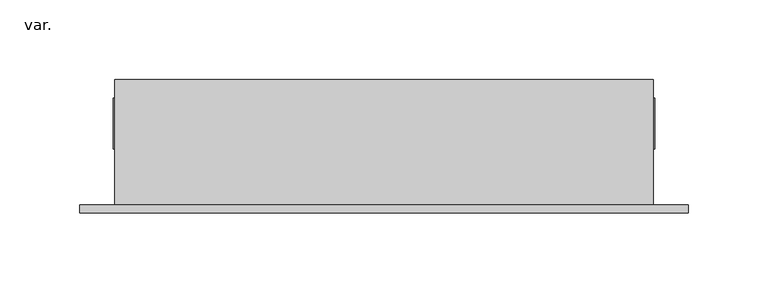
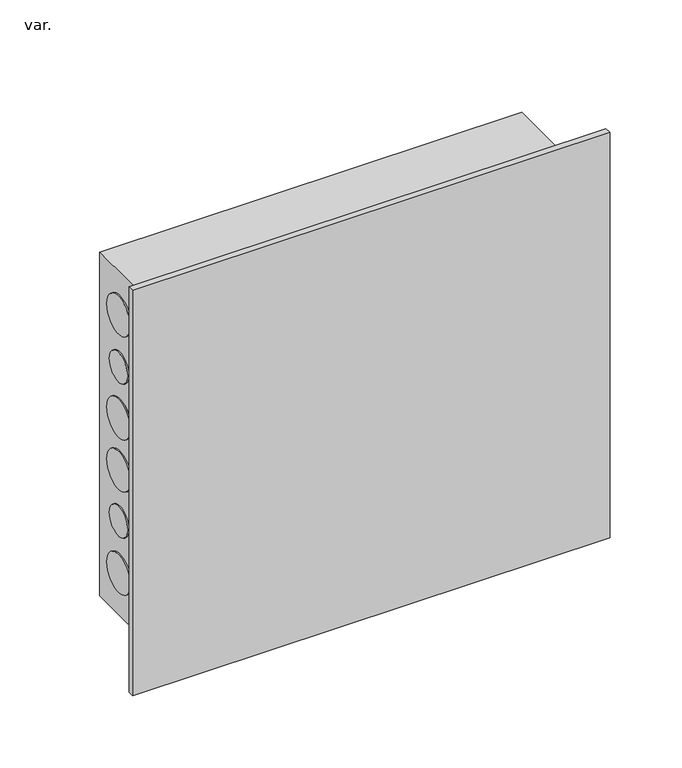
"""IFC4 building model written with IfcOpenShell, lengths in millimetres: pipe fitting geometry, AmancoWavin_ConexõesdoConduite_LinhaEletricaCorrugadoCaixadePassagemdeParedeGrande : var.."""

import ifcopenshell
import ifcopenshell.guid

model = None  # the IFC model being written
_history = None  # IfcOwnerHistory: only IFC2X3 demands one
_inside = {}  # id of a spatial element -> (the spatial element, [elements in it])
_under = {}  # id of a project, library or spatial element -> (it, [spatial elements below it])
_declared = {}  # id of a project -> (the project, [libraries it declares])
_typed = {}  # id of a type object -> (the type object, [elements of that type])
_made_of = {}  # id of a material, layer set ... -> (it, [elements and type objects made of it])


def new_model(schema):
    """Start an empty IFC model of exactly this schema.

    Asked for "IFC4X3", IfcOpenShell would pick the latest addendum, in which some entities
    have other attributes; the version numbers below select the first issue.
    IFC2X3 requires an IfcOwnerHistory on every rooted entity: one is made here for all.
    """
    global model, _history
    if schema == "IFC4X3":
        model = ifcopenshell.file(schema_version=(4, 3, 0, 0))
    else:
        model = ifcopenshell.file(schema=schema)
    _inside.clear()
    _under.clear()
    _declared.clear()
    _typed.clear()
    _made_of.clear()
    _history = None
    if model.schema == "IFC2X3":
        org = make("IfcOrganization", Name="unknown")
        user = make(
            "IfcPersonAndOrganization",
            ThePerson=make("IfcPerson", FamilyName="unknown"),
            TheOrganization=org,
        )
        app = make(
            "IfcApplication",
            ApplicationDeveloper=org,
            Version="unknown",
            ApplicationFullName="unknown",
            ApplicationIdentifier="unknown",
        )
        _history = make(
            "IfcOwnerHistory",
            OwningUser=user,
            OwningApplication=app,
            ChangeAction="ADDED",
            CreationDate=0,
        )
    return model


def make(cls, **values):
    """One entity of the class cls with the attributes given. An attribute that is None is left unset."""
    return model.create_entity(
        cls, **{name: value for name, value in values.items() if value is not None}
    )


def rooted(cls, **values):
    """An entity with a GlobalId (a new one), such as an element, a storey or a relation."""
    return make(cls, GlobalId=ifcopenshell.guid.new(), OwnerHistory=_history, **values)


def si_unit(unit_type, name, prefix=None):
    """IfcSIUnit, for example si_unit("LENGTHUNIT", "METRE", prefix="MILLI")."""
    return make("IfcSIUnit", UnitType=unit_type, Prefix=prefix, Name=name)


def assignment(units):
    """IfcUnitAssignment: the units of a project."""
    return None if units is None else make("IfcUnitAssignment", Units=units)


def point(xyz):
    """IfcCartesianPoint."""
    return None if xyz is None else make("IfcCartesianPoint", Coordinates=xyz)


def direction(xyz):
    """IfcDirection."""
    return None if xyz is None else make("IfcDirection", DirectionRatios=xyz)


def frame(location, z_axis=None, x_axis=None):
    """IfcAxis2Placement3D, a coordinate frame: its origin and axes. An axis left out is left unset."""
    return make(
        "IfcAxis2Placement3D",
        Location=point(location),
        Axis=direction(z_axis),
        RefDirection=direction(x_axis),
    )


def origin():
    """The frame at (0, 0, 0) with its axes left unset."""
    return frame((0.0, 0.0, 0.0))


def place(relative_to, where):
    """IfcLocalPlacement: puts the frame where relative to a parent placement (None: the world)."""
    return make(
        "IfcLocalPlacement", PlacementRelTo=relative_to, RelativePlacement=where
    )


def context(
    kind, dimensions, precision=None, world=None, true_north=None, identifier=None
):
    """IfcGeometricRepresentationContext, for example the 3D "Model" context."""
    return make(
        "IfcGeometricRepresentationContext",
        ContextIdentifier=identifier,
        ContextType=kind,
        CoordinateSpaceDimension=dimensions,
        Precision=precision,
        WorldCoordinateSystem=world,
        TrueNorth=true_north,
    )


def project(units=None, contexts=None):
    """IfcProject with its units and contexts."""
    return rooted(
        "IfcProject",
        Name="project",
        RepresentationContexts=contexts,
        UnitsInContext=assignment(units),
    )


def spatial(cls, under=None, at=None, **own):
    """A site, building, storey or space (cls), placed at a placement, below another one or the project."""
    s = rooted(cls, ObjectPlacement=at, **own)
    if under is not None:
        _under.setdefault(under.id(), (under, []))[1].append(s)
    return s


def polyline(points):
    """IfcPolyline through the points."""
    return make("IfcPolyline", Points=[point(p) for p in points])


def circle_curve(where, radius):
    """IfcCircle in the frame where."""
    return make("IfcCircle", Position=where, Radius=radius)


def shape(context_of_items, identifier, shape_type, items):
    """IfcShapeRepresentation: the items that make up one representation, for example the "Body"."""
    return make(
        "IfcShapeRepresentation",
        ContextOfItems=context_of_items,
        RepresentationIdentifier=identifier,
        RepresentationType=shape_type,
        Items=items,
    )


def source(mapping_origin, context_of_items, identifier, shape_type, items):
    """IfcRepresentationMap: a shape defined once, which mapped items show again and again."""
    return make(
        "IfcRepresentationMap",
        MappingOrigin=mapping_origin,
        MappedRepresentation=shape(context_of_items, identifier, shape_type, items),
    )


def transform(
    local_origin,
    x_axis=None,
    y_axis=None,
    z_axis=None,
    scale=None,
    scale2=None,
    scale3=None,
    uniform=True,
):
    """IfcCartesianTransformationOperator3D, or its non-uniform kind. x_axis, y_axis, z_axis: its Axis1, 2, 3."""
    if uniform:
        return make(
            "IfcCartesianTransformationOperator3D",
            Axis1=direction(x_axis),
            Axis2=direction(y_axis),
            LocalOrigin=point(local_origin),
            Scale=scale,
            Axis3=direction(z_axis),
        )
    return make(
        "IfcCartesianTransformationOperator3DnonUniform",
        Axis1=direction(x_axis),
        Axis2=direction(y_axis),
        LocalOrigin=point(local_origin),
        Scale=scale,
        Axis3=direction(z_axis),
        Scale2=scale2,
        Scale3=scale3,
    )


def mapped(mapping_source, mapping_target):
    """IfcMappedItem: shows the shape of a source again, moved by a transform."""
    return make(
        "IfcMappedItem", MappingSource=mapping_source, MappingTarget=mapping_target
    )


def made_of(thing, what):
    """Note that an element or type object is made of a material, layer set ...; save() writes the relation."""
    if what is not None:
        _made_of.setdefault(what.id(), (what, []))[1].append(thing)
    return thing


def element(
    cls,
    number,
    at=None,
    inside=None,
    cuts=None,
    type_object=None,
    material=None,
    context=None,
    identifier="Body",
    shape_type=None,
    held_by="IfcProductDefinitionShape",
    body=None,
    shapes=None,
    **own,
):
    """One element of the class cls, such as IfcWall. Its Tag is "e" and its number.

    at: its placement. inside: the storey or other place that contains it. cuts: it is an
    opening in that element (IfcRelVoidsElement). A single representation is given by context,
    identifier, shape_type and body (its items); several are given by shapes. held_by: the class
    of the entity that holds the representations. save() writes the other relations.
    """
    e = rooted(cls, Tag="e%d" % number, ObjectPlacement=at, **own)
    if body is not None:
        shapes = [shape(context, identifier, shape_type, body)]
    if shapes is not None:
        e.Representation = make(held_by, Representations=shapes)
    if inside is not None:
        _inside.setdefault(inside.id(), (inside, []))[1].append(e)
    if cuts is not None:
        rooted(
            "IfcRelVoidsElement", RelatingBuildingElement=cuts, RelatedOpeningElement=e
        )
    if type_object is not None:
        _typed.setdefault(type_object.id(), (type_object, []))[1].append(e)
    return made_of(e, material)


def aggregate(whole, parts):
    """IfcRelAggregates: a whole, such as a stair, and the parts it consists of."""
    return rooted("IfcRelAggregates", RelatingObject=whole, RelatedObjects=parts)


def save(model, path):
    """Write the relations noted so far, then the file.

    IfcRelAggregates (storeys below a building ...), IfcRelContainedInSpatialStructure (elements
    in a storey), IfcRelDefinesByType, IfcRelAssociatesMaterial and IfcRelDeclares: one each for
    every whole, place, type object, material and project.
    """
    for whole, parts in _under.values():
        aggregate(whole, parts)
    for where, things in _inside.values():
        rooted(
            "IfcRelContainedInSpatialStructure",
            RelatedElements=things,
            RelatingStructure=where,
        )
    for kind, things in _typed.values():
        rooted("IfcRelDefinesByType", RelatedObjects=things, RelatingType=kind)
    for what, things in _made_of.values():
        rooted("IfcRelAssociatesMaterial", RelatedObjects=things, RelatingMaterial=what)
    for by, libraries in _declared.values():
        rooted("IfcRelDeclares", RelatingContext=by, RelatedDefinitions=libraries)
    model.write(path)


def plane_surface(at):
    """IfcPlane: the flat surface through the origin of the frame at, square to its z axis."""
    return make("IfcPlane", Position=at)


def cylinder_surface(at, radius):
    """IfcCylindricalSurface: all points at the distance radius from the z axis of the frame at."""
    return make("IfcCylindricalSurface", Position=at, Radius=radius)


def revolved_surface(curve, axis_point, axis_direction):
    """IfcSurfaceOfRevolution: the curve turned about the line through axis_point along axis_direction."""
    return make(
        "IfcSurfaceOfRevolution",
        SweptCurve=make("IfcArbitraryOpenProfileDef", ProfileType="CURVE", Curve=curve),
        AxisPosition=make("IfcAxis1Placement", Location=point(axis_point), Axis=direction(axis_direction)),
    )


def advanced_brep(points, edges, surfaces, faces):
    """IfcAdvancedBrep: a solid bounded by faces that lie on surfaces and meet in shared edges.

    An edge is (start, end): straight between two places in points (the first is 0);
    or (start, end, curve); or (start, end, curve, False) where it runs against its curve.
    A face is (place in surfaces, loops), or (place, loops, False) where it looks against
    its surface's normal. A loop lists edges by number (the first is 1), with a minus sign
    where the edge is run from its end to its start. The first loop is the outer one.
    """
    corners = [point(p) for p in points]
    vertices = [make("IfcVertexPoint", VertexGeometry=c) for c in corners]
    made = []
    for start, end, *more in edges:
        made.append(
            make(
                "IfcEdgeCurve",
                EdgeStart=vertices[start],
                EdgeEnd=vertices[end],
                EdgeGeometry=more[0] if more else make("IfcPolyline", Points=[corners[start], corners[end]]),
                SameSense=more[1] if len(more) > 1 else True,
            )
        )
    hull = []
    for where, loops, *sense in faces:
        bounds = []
        for j, loop in enumerate(loops):
            ring = [make("IfcOrientedEdge", EdgeElement=made[abs(k) - 1], Orientation=k > 0) for k in loop]
            bounds.append(
                make(
                    "IfcFaceOuterBound" if j == 0 else "IfcFaceBound",
                    Bound=make("IfcEdgeLoop", EdgeList=ring),
                    Orientation=True,
                )
            )
        hull.append(make("IfcAdvancedFace", Bounds=bounds, FaceSurface=surfaces[where], SameSense=sense[0] if sense else True))
    return make("IfcAdvancedBrep", Outer=make("IfcClosedShell", CfsFaces=hull))


def var_74e7e824(model_context):
    return source(origin(), model_context, "Body", "AdvancedBrep", [
        advanced_brep(
        [(190.5, 5.0, 171.0), (190.5, 5.0, -171.0), (-190.5, 5.0, -171.0), (-190.5, 5.0, 171.0), (168.5, 5.0, -145.0), (168.5, 5.0, 145.0), (-168.5, 5.0, 145.0), (-168.5, 5.0, -145.0), (190.5, 0.0, 171.0), (190.5, 0.0, -171.0), (-190.5, 0.0, -171.0), (-190.5, 0.0, 171.0), (168.5, 83.5, 145.0), (168.5, 83.5, -145.0), (-168.5, 83.5, -145.0), (-168.5, 83.5, 145.0), (-132.5, 83.5, 120.0), (-157.5, 83.5, 120.0), (-89.0, 83.5, 120.0), (-121.0, 83.5, 120.0), (132.5, 83.5, 120.0), (157.5, 83.5, 120.0), (89.0, 83.5, 120.0), (121.0, 83.5, 120.0), (-132.5, 83.5, -120.0), (-157.5, 83.5, -120.0), (-89.0, 83.5, -120.0), (-121.0, 83.5, -120.0), (132.5, 83.5, -120.0), (157.5, 83.5, -120.0), (89.0, 83.5, -120.0), (121.0, 83.5, -120.0), (168.5, 40.0, 22.0), (168.5, 72.0, 22.0), (168.5, 43.5, 65.0), (168.5, 68.5, 65.0), (168.5, 40.0, 109.0), (168.5, 72.0, 109.0), (168.5, 40.0, -22.0), (168.5, 72.0, -22.0), (168.5, 43.5, -65.0), (168.5, 68.5, -65.0), (168.5, 40.0, -109.0), (168.5, 72.0, -109.0), (-168.5, 72.0, 22.0), (-168.5, 40.0, 22.0), (-168.5, 68.5, 65.0), (-168.5, 43.5, 65.0), (-168.5, 72.0, 109.0), (-168.5, 40.0, 109.0), (-168.5, 72.0, -22.0), (-168.5, 40.0, -22.0), (-168.5, 68.5, -65.0), (-168.5, 43.5, -65.0), (-168.5, 72.0, -109.0), (-168.5, 40.0, -109.0), (-157.5, 82.5, 120.0), (-132.5, 82.5, 120.0), (-121.0, 82.5, 120.0), (-89.0, 82.5, 120.0), (157.5, 82.5, 120.0), (132.5, 82.5, 120.0), (121.0, 82.5, 120.0), (89.0, 82.5, 120.0), (-157.5, 82.5, -120.0), (-132.5, 82.5, -120.0), (-121.0, 82.5, -120.0), (-89.0, 82.5, -120.0), (157.5, 82.5, -120.0), (132.5, 82.5, -120.0), (121.0, 82.5, -120.0), (89.0, 82.5, -120.0), (-169.5, 40.0, 22.0), (-169.5, 72.0, 22.0), (-169.5, 43.5, 65.0), (-169.5, 68.5, 65.0), (-169.5, 40.0, 109.0), (-169.5, 72.0, 109.0), (-169.5, 40.0, -22.0), (-169.5, 72.0, -22.0), (-169.5, 43.5, -65.0), (-169.5, 68.5, -65.0), (-169.5, 40.0, -109.0), (-169.5, 72.0, -109.0), (169.5, 40.0, 22.0), (169.5, 72.0, 22.0), (169.5, 43.5, 65.0), (169.5, 68.5, 65.0), (169.5, 40.0, 109.0), (169.5, 72.0, 109.0), (169.5, 40.0, -22.0), (169.5, 72.0, -22.0), (169.5, 43.5, -65.0), (169.5, 68.5, -65.0), (169.5, 40.0, -109.0), (169.5, 72.0, -109.0)],
        [
            (0, 1),
            (1, 2),
            (2, 3),
            (3, 0),
            (4, 5),
            (5, 6),
            (6, 7),
            (7, 4),
            (0, 8),
            (8, 9),
            (9, 1),
            (9, 10),
            (10, 2),
            (10, 11),
            (11, 3),
            (11, 8),
            (12, 13),
            (13, 14),
            (14, 15),
            (15, 12),
            (16, 17, circle_curve(frame((-145.0, 83.5, 120.0), z_axis=(0.0, -1.0, 0.0), x_axis=(1.0, 0.0, 0.0)), 12.5)),
            (17, 16, circle_curve(frame((-145.0, 83.5, 120.0), z_axis=(0.0, -1.0, 0.0), x_axis=(1.0, 0.0, 0.0)), 12.5)),
            (18, 19, circle_curve(frame((-105.0, 83.5, 120.0), z_axis=(0.0, -1.0, 0.0), x_axis=(1.0, 0.0, 0.0)), 16.0)),
            (19, 18, circle_curve(frame((-105.0, 83.5, 120.0), z_axis=(0.0, -1.0, 0.0), x_axis=(1.0, 0.0, 0.0)), 16.0)),
            (20, 21, circle_curve(frame((145.0, 83.5, 120.0), z_axis=(0.0, -1.0, 0.0), x_axis=(-1.0, 0.0, 0.0)), 12.5)),
            (21, 20, circle_curve(frame((145.0, 83.5, 120.0), z_axis=(0.0, -1.0, 0.0), x_axis=(-1.0, 0.0, 0.0)), 12.5)),
            (22, 23, circle_curve(frame((105.0, 83.5, 120.0), z_axis=(0.0, -1.0, 0.0), x_axis=(-1.0, 0.0, 0.0)), 16.0)),
            (23, 22, circle_curve(frame((105.0, 83.5, 120.0), z_axis=(0.0, -1.0, 0.0), x_axis=(-1.0, 0.0, 0.0)), 16.0)),
            (24, 25, circle_curve(frame((-145.0, 83.5, -120.0), z_axis=(0.0, -1.0, 0.0), x_axis=(1.0, 0.0, 0.0)), 12.5)),
            (25, 24, circle_curve(frame((-145.0, 83.5, -120.0), z_axis=(0.0, -1.0, 0.0), x_axis=(1.0, 0.0, 0.0)), 12.5)),
            (26, 27, circle_curve(frame((-105.0, 83.5, -120.0), z_axis=(0.0, -1.0, 0.0), x_axis=(1.0, 0.0, 0.0)), 16.0)),
            (27, 26, circle_curve(frame((-105.0, 83.5, -120.0), z_axis=(0.0, -1.0, 0.0), x_axis=(1.0, 0.0, 0.0)), 16.0)),
            (28, 29, circle_curve(frame((145.0, 83.5, -120.0), z_axis=(0.0, -1.0, 0.0), x_axis=(-1.0, 0.0, 0.0)), 12.5)),
            (29, 28, circle_curve(frame((145.0, 83.5, -120.0), z_axis=(0.0, -1.0, 0.0), x_axis=(-1.0, 0.0, 0.0)), 12.5)),
            (30, 31, circle_curve(frame((105.0, 83.5, -120.0), z_axis=(0.0, -1.0, 0.0), x_axis=(-1.0, 0.0, 0.0)), 16.0)),
            (31, 30, circle_curve(frame((105.0, 83.5, -120.0), z_axis=(0.0, -1.0, 0.0), x_axis=(-1.0, 0.0, 0.0)), 16.0)),
            (12, 5),
            (4, 13),
            (32, 33, circle_curve(frame((168.5, 56.0, 22.0), z_axis=(-1.0, 0.0, 0.0), x_axis=(0.0, 1.0, 0.0)), 16.0)),
            (33, 32, circle_curve(frame((168.5, 56.0, 22.0), z_axis=(-1.0, 0.0, 0.0), x_axis=(0.0, 1.0, 0.0)), 16.0)),
            (34, 35, circle_curve(frame((168.5, 56.0, 65.0), z_axis=(-1.0, 0.0, 0.0), x_axis=(0.0, 1.0, 0.0)), 12.5)),
            (35, 34, circle_curve(frame((168.5, 56.0, 65.0), z_axis=(-1.0, 0.0, 0.0), x_axis=(0.0, 1.0, 0.0)), 12.5)),
            (36, 37, circle_curve(frame((168.5, 56.0, 109.0), z_axis=(-1.0, 0.0, 0.0), x_axis=(0.0, 1.0, 0.0)), 16.0)),
            (37, 36, circle_curve(frame((168.5, 56.0, 109.0), z_axis=(-1.0, 0.0, 0.0), x_axis=(0.0, 1.0, 0.0)), 16.0)),
            (38, 39, circle_curve(frame((168.5, 56.0, -22.0), z_axis=(-1.0, 0.0, 0.0), x_axis=(0.0, 1.0, 0.0)), 16.0)),
            (39, 38, circle_curve(frame((168.5, 56.0, -22.0), z_axis=(-1.0, 0.0, 0.0), x_axis=(0.0, 1.0, 0.0)), 16.0)),
            (40, 41, circle_curve(frame((168.5, 56.0, -65.0), z_axis=(-1.0, 0.0, 0.0), x_axis=(0.0, 1.0, 0.0)), 12.5)),
            (41, 40, circle_curve(frame((168.5, 56.0, -65.0), z_axis=(-1.0, 0.0, 0.0), x_axis=(0.0, 1.0, 0.0)), 12.5)),
            (42, 43, circle_curve(frame((168.5, 56.0, -109.0), z_axis=(-1.0, 0.0, 0.0), x_axis=(0.0, 1.0, 0.0)), 16.0)),
            (43, 42, circle_curve(frame((168.5, 56.0, -109.0), z_axis=(-1.0, 0.0, 0.0), x_axis=(0.0, 1.0, 0.0)), 16.0)),
            (7, 14),
            (6, 15),
            (44, 45, circle_curve(frame((-168.5, 56.0, 22.0), z_axis=(1.0, 0.0, 0.0), x_axis=(0.0, 1.0, 0.0)), 16.0)),
            (45, 44, circle_curve(frame((-168.5, 56.0, 22.0), z_axis=(1.0, 0.0, 0.0), x_axis=(0.0, 1.0, 0.0)), 16.0)),
            (46, 47, circle_curve(frame((-168.5, 56.0, 65.0), z_axis=(1.0, 0.0, 0.0), x_axis=(0.0, 1.0, 0.0)), 12.5)),
            (47, 46, circle_curve(frame((-168.5, 56.0, 65.0), z_axis=(1.0, 0.0, 0.0), x_axis=(0.0, 1.0, 0.0)), 12.5)),
            (48, 49, circle_curve(frame((-168.5, 56.0, 109.0), z_axis=(1.0, 0.0, 0.0), x_axis=(0.0, 1.0, 0.0)), 16.0)),
            (49, 48, circle_curve(frame((-168.5, 56.0, 109.0), z_axis=(1.0, 0.0, 0.0), x_axis=(0.0, 1.0, 0.0)), 16.0)),
            (50, 51, circle_curve(frame((-168.5, 56.0, -22.0), z_axis=(1.0, 0.0, 0.0), x_axis=(0.0, 1.0, 0.0)), 16.0)),
            (51, 50, circle_curve(frame((-168.5, 56.0, -22.0), z_axis=(1.0, 0.0, 0.0), x_axis=(0.0, 1.0, 0.0)), 16.0)),
            (52, 53, circle_curve(frame((-168.5, 56.0, -65.0), z_axis=(1.0, 0.0, 0.0), x_axis=(0.0, 1.0, 0.0)), 12.5)),
            (53, 52, circle_curve(frame((-168.5, 56.0, -65.0), z_axis=(1.0, 0.0, 0.0), x_axis=(0.0, 1.0, 0.0)), 12.5)),
            (54, 55, circle_curve(frame((-168.5, 56.0, -109.0), z_axis=(1.0, 0.0, 0.0), x_axis=(0.0, 1.0, 0.0)), 16.0)),
            (55, 54, circle_curve(frame((-168.5, 56.0, -109.0), z_axis=(1.0, 0.0, 0.0), x_axis=(0.0, 1.0, 0.0)), 16.0)),
            (56, 57, circle_curve(frame((-145.0, 82.5, 120.0), z_axis=(0.0, 1.0, 0.0), x_axis=(1.0, 0.0, 0.0)), 12.5)),
            (57, 56, circle_curve(frame((-145.0, 82.5, 120.0), z_axis=(0.0, 1.0, 0.0), x_axis=(1.0, 0.0, 0.0)), 12.5)),
            (58, 59, circle_curve(frame((-105.0, 82.5, 120.0), z_axis=(0.0, 1.0, 0.0), x_axis=(1.0, 0.0, 0.0)), 16.0)),
            (59, 58, circle_curve(frame((-105.0, 82.5, 120.0), z_axis=(0.0, 1.0, 0.0), x_axis=(1.0, 0.0, 0.0)), 16.0)),
            (60, 61, circle_curve(frame((145.0, 82.5, 120.0), z_axis=(0.0, 1.0, 0.0), x_axis=(-1.0, 0.0, 0.0)), 12.5)),
            (61, 60, circle_curve(frame((145.0, 82.5, 120.0), z_axis=(0.0, 1.0, 0.0), x_axis=(-1.0, 0.0, 0.0)), 12.5)),
            (62, 63, circle_curve(frame((105.0, 82.5, 120.0), z_axis=(0.0, 1.0, 0.0), x_axis=(-1.0, 0.0, 0.0)), 16.0)),
            (63, 62, circle_curve(frame((105.0, 82.5, 120.0), z_axis=(0.0, 1.0, 0.0), x_axis=(-1.0, 0.0, 0.0)), 16.0)),
            (64, 65, circle_curve(frame((-145.0, 82.5, -120.0), z_axis=(0.0, 1.0, 0.0), x_axis=(1.0, 0.0, 0.0)), 12.5)),
            (65, 64, circle_curve(frame((-145.0, 82.5, -120.0), z_axis=(0.0, 1.0, 0.0), x_axis=(1.0, 0.0, 0.0)), 12.5)),
            (66, 67, circle_curve(frame((-105.0, 82.5, -120.0), z_axis=(0.0, 1.0, 0.0), x_axis=(1.0, 0.0, 0.0)), 16.0)),
            (67, 66, circle_curve(frame((-105.0, 82.5, -120.0), z_axis=(0.0, 1.0, 0.0), x_axis=(1.0, 0.0, 0.0)), 16.0)),
            (68, 69, circle_curve(frame((145.0, 82.5, -120.0), z_axis=(0.0, 1.0, 0.0), x_axis=(-1.0, 0.0, 0.0)), 12.5)),
            (69, 68, circle_curve(frame((145.0, 82.5, -120.0), z_axis=(0.0, 1.0, 0.0), x_axis=(-1.0, 0.0, 0.0)), 12.5)),
            (70, 71, circle_curve(frame((105.0, 82.5, -120.0), z_axis=(0.0, 1.0, 0.0), x_axis=(-1.0, 0.0, 0.0)), 16.0)),
            (71, 70, circle_curve(frame((105.0, 82.5, -120.0), z_axis=(0.0, 1.0, 0.0), x_axis=(-1.0, 0.0, 0.0)), 16.0)),
            (56, 17),
            (16, 57),
            (58, 19),
            (18, 59),
            (60, 21),
            (20, 61),
            (62, 23),
            (22, 63),
            (64, 25),
            (24, 65),
            (66, 27),
            (26, 67),
            (68, 29),
            (28, 69),
            (70, 31),
            (30, 71),
            (72, 73, circle_curve(frame((-169.5, 56.0, 22.0), z_axis=(-1.0, 0.0, 0.0), x_axis=(0.0, 1.0, 0.0)), 16.0)),
            (73, 72, circle_curve(frame((-169.5, 56.0, 22.0), z_axis=(-1.0, 0.0, 0.0), x_axis=(0.0, 1.0, 0.0)), 16.0)),
            (74, 75, circle_curve(frame((-169.5, 56.0, 65.0), z_axis=(-1.0, 0.0, 0.0), x_axis=(0.0, 1.0, 0.0)), 12.5)),
            (75, 74, circle_curve(frame((-169.5, 56.0, 65.0), z_axis=(-1.0, 0.0, 0.0), x_axis=(0.0, 1.0, 0.0)), 12.5)),
            (76, 77, circle_curve(frame((-169.5, 56.0, 109.0), z_axis=(-1.0, 0.0, 0.0), x_axis=(0.0, 1.0, 0.0)), 16.0)),
            (77, 76, circle_curve(frame((-169.5, 56.0, 109.0), z_axis=(-1.0, 0.0, 0.0), x_axis=(0.0, 1.0, 0.0)), 16.0)),
            (78, 79, circle_curve(frame((-169.5, 56.0, -22.0), z_axis=(-1.0, 0.0, 0.0), x_axis=(0.0, 1.0, 0.0)), 16.0)),
            (79, 78, circle_curve(frame((-169.5, 56.0, -22.0), z_axis=(-1.0, 0.0, 0.0), x_axis=(0.0, 1.0, 0.0)), 16.0)),
            (80, 81, circle_curve(frame((-169.5, 56.0, -65.0), z_axis=(-1.0, 0.0, 0.0), x_axis=(0.0, 1.0, 0.0)), 12.5)),
            (81, 80, circle_curve(frame((-169.5, 56.0, -65.0), z_axis=(-1.0, 0.0, 0.0), x_axis=(0.0, 1.0, 0.0)), 12.5)),
            (82, 83, circle_curve(frame((-169.5, 56.0, -109.0), z_axis=(-1.0, 0.0, 0.0), x_axis=(0.0, 1.0, 0.0)), 16.0)),
            (83, 82, circle_curve(frame((-169.5, 56.0, -109.0), z_axis=(-1.0, 0.0, 0.0), x_axis=(0.0, 1.0, 0.0)), 16.0)),
            (84, 85, circle_curve(frame((169.5, 56.0, 22.0), z_axis=(1.0, 0.0, 0.0), x_axis=(0.0, 1.0, 0.0)), 16.0)),
            (85, 84, circle_curve(frame((169.5, 56.0, 22.0), z_axis=(1.0, 0.0, 0.0), x_axis=(0.0, 1.0, 0.0)), 16.0)),
            (86, 87, circle_curve(frame((169.5, 56.0, 65.0), z_axis=(1.0, 0.0, 0.0), x_axis=(0.0, 1.0, 0.0)), 12.5)),
            (87, 86, circle_curve(frame((169.5, 56.0, 65.0), z_axis=(1.0, 0.0, 0.0), x_axis=(0.0, 1.0, 0.0)), 12.5)),
            (88, 89, circle_curve(frame((169.5, 56.0, 109.0), z_axis=(1.0, 0.0, 0.0), x_axis=(0.0, 1.0, 0.0)), 16.0)),
            (89, 88, circle_curve(frame((169.5, 56.0, 109.0), z_axis=(1.0, 0.0, 0.0), x_axis=(0.0, 1.0, 0.0)), 16.0)),
            (90, 91, circle_curve(frame((169.5, 56.0, -22.0), z_axis=(1.0, 0.0, 0.0), x_axis=(0.0, 1.0, 0.0)), 16.0)),
            (91, 90, circle_curve(frame((169.5, 56.0, -22.0), z_axis=(1.0, 0.0, 0.0), x_axis=(0.0, 1.0, 0.0)), 16.0)),
            (92, 93, circle_curve(frame((169.5, 56.0, -65.0), z_axis=(1.0, 0.0, 0.0), x_axis=(0.0, 1.0, 0.0)), 12.5)),
            (93, 92, circle_curve(frame((169.5, 56.0, -65.0), z_axis=(1.0, 0.0, 0.0), x_axis=(0.0, 1.0, 0.0)), 12.5)),
            (94, 95, circle_curve(frame((169.5, 56.0, -109.0), z_axis=(1.0, 0.0, 0.0), x_axis=(0.0, 1.0, 0.0)), 16.0)),
            (95, 94, circle_curve(frame((169.5, 56.0, -109.0), z_axis=(1.0, 0.0, 0.0), x_axis=(0.0, 1.0, 0.0)), 16.0)),
            (72, 45),
            (44, 73),
            (85, 33),
            (32, 84),
            (74, 47),
            (46, 75),
            (87, 35),
            (34, 86),
            (76, 49),
            (48, 77),
            (89, 37),
            (36, 88),
            (78, 51),
            (50, 79),
            (91, 39),
            (38, 90),
            (80, 53),
            (52, 81),
            (93, 41),
            (40, 92),
            (82, 55),
            (54, 83),
            (95, 43),
            (42, 94),
        ],
        [
            plane_surface(frame((190.5, 5.0, 200.5423623), z_axis=(0.0, 1.0, 0.0), x_axis=(0.0, 0.0, -1.0))),
            plane_surface(frame((190.5, 5.0, 171.0), z_axis=(1.0, 0.0, 0.0), x_axis=(0.0, -1.0, 0.0))),
            plane_surface(frame((190.5, 5.0, -171.0), z_axis=(0.0, 0.0, -1.0), x_axis=(0.0, -1.0, 0.0))),
            plane_surface(frame((-190.5, 5.0, -171.0), z_axis=(-1.0, 0.0, 0.0), x_axis=(0.0, -1.0, 0.0))),
            plane_surface(frame((-190.5, 5.0, 171.0), z_axis=(0.0, 0.0, 1.0), x_axis=(0.0, -1.0, 0.0))),
            plane_surface(frame((168.5, 83.5, 132.4195146), z_axis=(0.0, 1.0, 0.0), x_axis=(0.0, 0.0, -1.0))),
            plane_surface(frame((168.5, 0.0, 132.4195146), z_axis=(0.0, -1.0, 0.0), x_axis=(0.0, 0.0, 1.0))),
            plane_surface(frame((168.5, 83.5, 145.0), z_axis=(1.0, 0.0, 0.0), x_axis=(0.0, -1.0, 0.0))),
            plane_surface(frame((168.5, 83.5, -145.0), z_axis=(0.0, 0.0, -1.0), x_axis=(0.0, -1.0, 0.0))),
            plane_surface(frame((-168.5, 83.5, -145.0), z_axis=(-1.0, 0.0, 0.0), x_axis=(0.0, -1.0, 0.0))),
            plane_surface(frame((-168.5, 83.5, 145.0), z_axis=(0.0, 0.0, 1.0), x_axis=(0.0, -1.0, 0.0))),
            plane_surface(frame((-132.5, 82.5, 120.0), z_axis=(0.0, 1.0, 0.0), x_axis=(0.0, 0.0, 1.0))),
            revolved_surface(polyline([(-132.5, 83.5, 120.0), (-132.5, 82.5, 120.0)]), (-145.0, 82.5, 120.0), (0.0, 1.0, 0.0)),
            revolved_surface(polyline([(-89.0, 83.5, 120.0), (-89.0, 82.5, 120.0)]), (-105.0, 0.0, 120.0), (0.0, 1.0, 0.0)),
            revolved_surface(polyline([(132.5, 83.5, 120.0), (132.5, 82.5, 120.0)]), (145.0, 0.0, 120.0), (0.0, 1.0, 0.0)),
            revolved_surface(polyline([(89.0, 83.5, 120.0), (89.0, 82.5, 120.0)]), (105.0, 0.0, 120.0), (0.0, 1.0, 0.0)),
            revolved_surface(polyline([(-132.5, 83.5, -120.0), (-132.5, 82.5, -120.0)]), (-145.0, 0.0, -120.0), (0.0, 1.0, 0.0)),
            revolved_surface(polyline([(-89.0, 83.5, -120.0), (-89.0, 82.5, -120.0)]), (-105.0, 0.0, -120.0), (0.0, 1.0, 0.0)),
            revolved_surface(polyline([(132.5, 83.5, -120.0), (132.5, 82.5, -120.0)]), (145.0, 0.0, -120.0), (0.0, 1.0, 0.0)),
            revolved_surface(polyline([(89.0, 83.5, -120.0), (89.0, 82.5, -120.0)]), (105.0, 0.0, -120.0), (0.0, 1.0, 0.0)),
            plane_surface(frame((-169.5, 72.0, 22.0), z_axis=(-1.0, 0.0, 0.0), x_axis=(0.0, 0.0, -1.0))),
            plane_surface(frame((169.5, 72.0, 22.0), z_axis=(1.0, 0.0, 0.0), x_axis=(0.0, 0.0, 1.0))),
            cylinder_surface(frame((169.5, 56.0, 22.0), z_axis=(-1.0, 0.0, 0.0), x_axis=(0.0, 1.0, 0.0)), 16.0),
            cylinder_surface(frame((0.0, 56.0, 65.0), z_axis=(-1.0, 0.0, 0.0), x_axis=(0.0, 1.0, 0.0)), 12.5),
            cylinder_surface(frame((0.0, 56.0, 109.0), z_axis=(-1.0, 0.0, 0.0), x_axis=(0.0, 1.0, 0.0)), 16.0),
            cylinder_surface(frame((0.0, 56.0, -22.0), z_axis=(-1.0, 0.0, 0.0), x_axis=(0.0, 1.0, 0.0)), 16.0),
            cylinder_surface(frame((0.0, 56.0, -65.0), z_axis=(-1.0, 0.0, 0.0), x_axis=(0.0, 1.0, 0.0)), 12.5),
            cylinder_surface(frame((0.0, 56.0, -109.0), z_axis=(-1.0, 0.0, 0.0), x_axis=(0.0, 1.0, 0.0)), 16.0),
        ],
        [
            (0, [[1, 2, 3, 4], [5, 6, 7, 8]]),
            (1, [[-1, 9, 10, 11]]),
            (2, [[-2, -11, 12, 13]]),
            (3, [[-3, -13, 14, 15]]),
            (4, [[-4, -15, 16, -9]]),
            (5, [[17, 18, 19, 20], [21, 22], [23, 24], [25, 26], [27, 28], [29, 30], [31, 32], [33, 34], [35, 36]]),
            (6, [[-16, -14, -12, -10]]),
            (7, [[-17, 37, -5, 38], [39, 40], [41, 42], [43, 44], [45, 46], [47, 48], [49, 50]]),
            (8, [[-18, -38, -8, 51]]),
            (9, [[-19, -51, -7, 52], [53, 54], [55, 56], [57, 58], [59, 60], [61, 62], [63, 64]]),
            (10, [[-20, -52, -6, -37]]),
            (11, [[65, 66]]),
            (11, [[67, 68]]),
            (11, [[69, 70]]),
            (11, [[71, 72]]),
            (11, [[73, 74]]),
            (11, [[75, 76]]),
            (11, [[77, 78]]),
            (11, [[79, 80]]),
            (12, [[-65, 81, -21, 82]]),
            (12, [[-66, -82, -22, -81]]),
            (13, [[-67, 83, -23, 84]]),
            (13, [[-68, -84, -24, -83]]),
            (14, [[-69, 85, -25, 86]]),
            (14, [[-70, -86, -26, -85]]),
            (15, [[-71, 87, -27, 88]]),
            (15, [[-72, -88, -28, -87]]),
            (16, [[-73, 89, -29, 90]]),
            (16, [[-74, -90, -30, -89]]),
            (17, [[-75, 91, -31, 92]]),
            (17, [[-76, -92, -32, -91]]),
            (18, [[-77, 93, -33, 94]]),
            (18, [[-78, -94, -34, -93]]),
            (19, [[-79, 95, -35, 96]]),
            (19, [[-80, -96, -36, -95]]),
            (20, [[97, 98]]),
            (20, [[99, 100]]),
            (20, [[101, 102]]),
            (20, [[103, 104]]),
            (20, [[105, 106]]),
            (20, [[107, 108]]),
            (21, [[109, 110]]),
            (21, [[111, 112]]),
            (21, [[113, 114]]),
            (21, [[115, 116]]),
            (21, [[117, 118]]),
            (21, [[119, 120]]),
            (22, [[-97, 121, -53, 122]]),
            (22, [[-110, 123, -39, 124]]),
            (22, [[-98, -122, -54, -121]]),
            (22, [[-109, -124, -40, -123]]),
            (23, [[-99, 125, -55, 126]]),
            (23, [[-112, 127, -41, 128]]),
            (23, [[-100, -126, -56, -125]]),
            (23, [[-111, -128, -42, -127]]),
            (24, [[-101, 129, -57, 130]]),
            (24, [[-114, 131, -43, 132]]),
            (24, [[-102, -130, -58, -129]]),
            (24, [[-113, -132, -44, -131]]),
            (25, [[-103, 133, -59, 134]]),
            (25, [[-116, 135, -45, 136]]),
            (25, [[-104, -134, -60, -133]]),
            (25, [[-115, -136, -46, -135]]),
            (26, [[-105, 137, -61, 138]]),
            (26, [[-118, 139, -47, 140]]),
            (26, [[-106, -138, -62, -137]]),
            (26, [[-117, -140, -48, -139]]),
            (27, [[-107, 141, -63, 142]]),
            (27, [[-120, 143, -49, 144]]),
            (27, [[-108, -142, -64, -141]]),
            (27, [[-119, -144, -50, -143]]),
        ],
    ),
    ])


if __name__ == "__main__":
    model = new_model("IFC4")
    model_context = context("Model", 3, world=origin())
    ifc_project = project(units=[si_unit("LENGTHUNIT", "METRE", prefix="MILLI")], contexts=[model_context])
    site = spatial("IfcSite", under=ifc_project)
    building = spatial("IfcBuilding", under=site)
    placement = place(None, origin())
    var_shape = var_74e7e824(model_context)
    element("IfcPipeFitting", 1, ObjectType="AmancoWavin_ConexõesdoConduite_LinhaEletricaCorrugadoCaixadePassagemdeParedeGrande : var.", at=placement, inside=building, context=model_context, shape_type="MappedRepresentation", body=[
        mapped(var_shape, transform((0.0, 0.0, 0.0), x_axis=(1.0, 0.0, 0.0), y_axis=(0.0, 1.0, 0.0), z_axis=(0.0, 0.0, 1.0))),
    ])
    save(model, "model.ifc")
